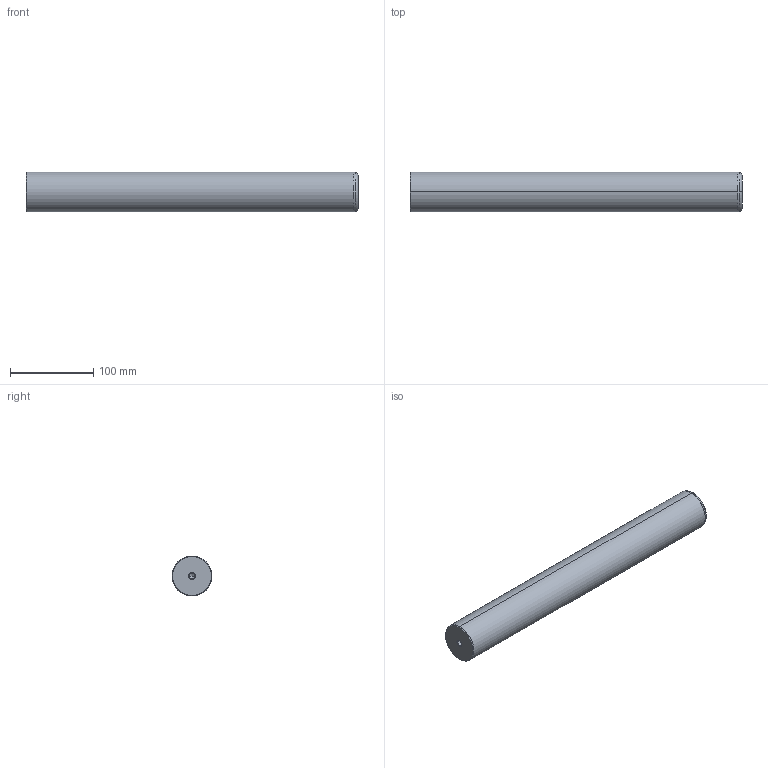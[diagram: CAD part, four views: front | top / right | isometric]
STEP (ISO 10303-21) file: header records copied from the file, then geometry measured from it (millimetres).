
FILE_DESCRIPTION(('CATIA V5 STEP Exchange'),'2;1');
FILE_NAME('C:\Users\Utente\Desktop\IO LAVORO\3D X SITO CF\X SITO\720\720-48x400.stp','2020-12-30T21:47:27+00:00',('none'),('none'),'CATIA Version 5 Release 20 GA (IN-10)','CATIA V5 STEP AP203','none');
FILE_SCHEMA(('CONFIG_CONTROL_DESIGN'));
Length unit declared in the file: millimetre
Products named in the file (1): 720-48x400
Bounding box: 400 x 48 x 48 mm (x, y, z)
Volume: 721312.3 mm3; surface area: 64546 mm2
Topology: 1 solids, 1 shells, 22 faces, 62 edges, 40 vertices
Faces by surface type: cone 12, cylinder 6, plane 2, torus 2
Entity records: 806 total; most frequent: CARTESIAN_POINT 229, ORIENTED_EDGE 116, DIRECTION 93, EDGE_CURVE 58, AXIS2_PLACEMENT_3D 54, VERTEX_POINT 40, CIRCLE 31, EDGE_LOOP 24
